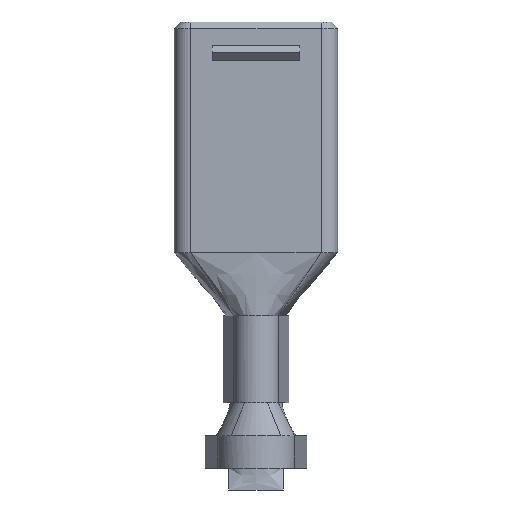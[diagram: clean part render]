
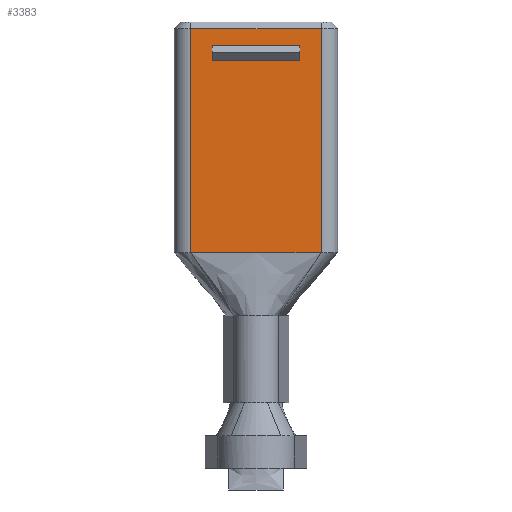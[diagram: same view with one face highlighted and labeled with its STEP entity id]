
A CAD part, front view. The second image highlights one B-rep face of the part: STEP entity #3383.
In plain terms, the highlighted planar face has unit normal (0, -1, 0).
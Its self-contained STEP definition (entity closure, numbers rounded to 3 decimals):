
#870=DIRECTION('',(0.,0.,-1.));
#871=VECTOR('',#870,10.3);
#872=CARTESIAN_POINT('',(3.,0.,
-0.3));
#873=LINE('',#872,#871);
#882=DIRECTION('',(0.,0.,-1.));
#883=VECTOR('',#882,0.566);
#884=CARTESIAN_POINT('',(-2.,0.,-1.217));
#885=LINE('',#884,#883);
#886=DIRECTION('',(1.,0.,0.));
#887=VECTOR('',#886,4.);
#888=CARTESIAN_POINT('',(-2.,0.,-1.783));
#889=LINE('',#888,#887);
#890=DIRECTION('',(0.,0.,-1.));
#891=VECTOR('',#890,0.566);
#892=CARTESIAN_POINT('',(2.,0.,-1.217));
#893=LINE('',#892,#891);
#894=DIRECTION('',(1.,0.,0.));
#895=VECTOR('',#894,4.);
#896=CARTESIAN_POINT('',(-2.,0.,-1.217));
#897=LINE('',#896,#895);
#898=DIRECTION('',(1.,0.,0.));
#899=VECTOR('',#898,6.);
#900=CARTESIAN_POINT('',(-3.,0.,
-0.3));
#901=LINE('',#900,#899);
#902=DIRECTION('',(-1.,0.,0.));
#903=VECTOR('',#902,2.975);
#904=CARTESIAN_POINT('',(3.,0.,
-10.6));
#905=LINE('',#904,#903);
#906=DIRECTION('',(-1.,0.,0.));
#907=VECTOR('',#906,0.025);
#908=CARTESIAN_POINT('',(0.025,0.,-10.6));
#909=LINE('',#908,#907);
#910=DIRECTION('',(-1.,0.,0.));
#911=VECTOR('',#910,3.);
#912=CARTESIAN_POINT('',(0.,0.,-10.6));
#913=LINE('',#912,#911);
#914=DIRECTION('',(0.,0.,-1.));
#915=VECTOR('',#914,10.3);
#916=CARTESIAN_POINT('',(-3.,0.,
-0.3));
#917=LINE('',#916,#915);
#1912=CARTESIAN_POINT('',(3.,0.,-0.3));
#1913=VERTEX_POINT('',#1912);
#1916=CARTESIAN_POINT('',(-3.,0.,
-0.3));
#1917=VERTEX_POINT('',#1916);
#1938=CARTESIAN_POINT('',(-2.,0.,-1.217));
#1939=CARTESIAN_POINT('',(-2.,0.,-1.783));
#1940=VERTEX_POINT('',#1938);
#1941=VERTEX_POINT('',#1939);
#1942=CARTESIAN_POINT('',(2.,0.,-1.217));
#1943=CARTESIAN_POINT('',(2.,0.,-1.783));
#1944=VERTEX_POINT('',#1942);
#1945=VERTEX_POINT('',#1943);
#1963=CARTESIAN_POINT('',(3.,0.,-10.6));
#1965=VERTEX_POINT('',#1963);
#1966=CARTESIAN_POINT('',(0.025,0.,-10.6));
#1967=VERTEX_POINT('',#1966);
#1968=CARTESIAN_POINT('',(-3.,0.,-10.6));
#1970=VERTEX_POINT('',#1968);
#2161=CARTESIAN_POINT('',(0.,0.,-10.6));
#2162=VERTEX_POINT('',#2161);
#3356=CARTESIAN_POINT('',(-3.,0.,0.));
#3357=DIRECTION('',(0.,-1.,0.));
#3358=DIRECTION('',(1.,0.,0.));
#3359=AXIS2_PLACEMENT_3D('',#3356,#3357,#3358);
#3360=PLANE('',#3359);
#3361=ORIENTED_EDGE('',*,*,#3349,.T.);
#3362=ORIENTED_EDGE('',*,*,#3324,.T.);
#3364=ORIENTED_EDGE('',*,*,#3363,.T.);
#3366=ORIENTED_EDGE('',*,*,#3365,.T.);
#3368=ORIENTED_EDGE('',*,*,#3367,.T.);
#3370=ORIENTED_EDGE('',*,*,#3369,.F.);
#3371=EDGE_LOOP('',(#3361,#3362,#3364,#3366,#3368,#3370));
#3372=FACE_OUTER_BOUND('',#3371,.F.);
#3374=ORIENTED_EDGE('',*,*,#3373,.T.);
#3376=ORIENTED_EDGE('',*,*,#3375,.T.);
#3378=ORIENTED_EDGE('',*,*,#3377,.F.);
#3380=ORIENTED_EDGE('',*,*,#3379,.F.);
#3381=EDGE_LOOP('',(#3374,#3376,#3378,#3380));
#3382=FACE_BOUND('',#3381,.F.);
#3324=EDGE_CURVE('',#1913,#1965,#873,.T.);
#3349=EDGE_CURVE('',#1917,#1913,#901,.T.);
#3363=EDGE_CURVE('',#1965,#1967,#905,.T.);
#3365=EDGE_CURVE('',#1967,#2162,#909,.T.);
#3367=EDGE_CURVE('',#2162,#1970,#913,.T.);
#3369=EDGE_CURVE('',#1917,#1970,#917,.T.);
#3373=EDGE_CURVE('',#1940,#1941,#885,.T.);
#3375=EDGE_CURVE('',#1941,#1945,#889,.T.);
#3377=EDGE_CURVE('',#1944,#1945,#893,.T.);
#3379=EDGE_CURVE('',#1940,#1944,#897,.T.);
#3383=ADVANCED_FACE('',(#3372,#3382),#3360,.T.);
